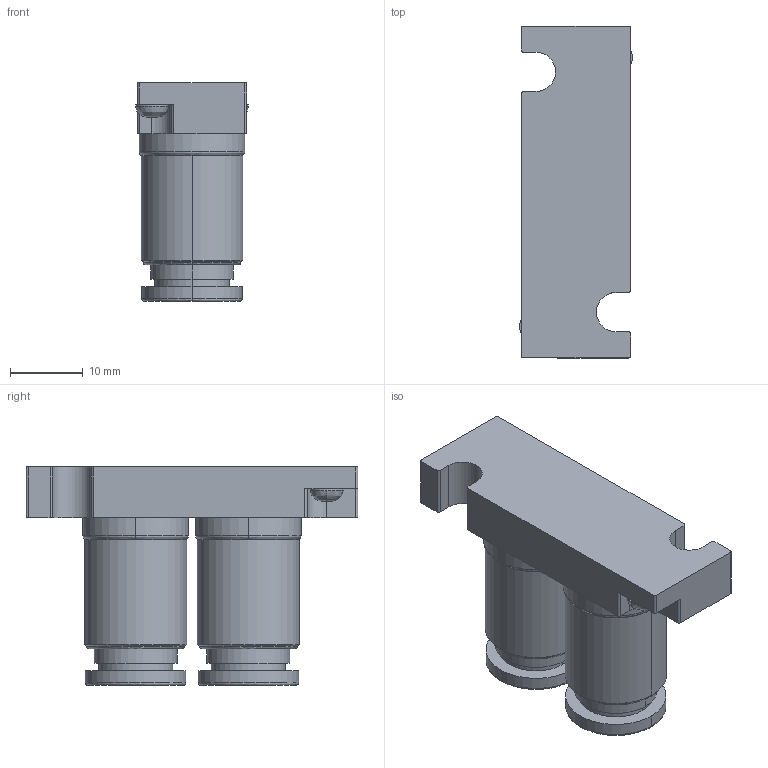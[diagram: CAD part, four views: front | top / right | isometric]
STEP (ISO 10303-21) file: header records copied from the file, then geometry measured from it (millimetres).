
FILE_DESCRIPTION( (''), '2;1');
FILE_NAME ('CVICAD02.6296.F15_Port-VJ6_23607.stp','2021-07-12T19:23:35',(''),(''),'spGate 12.6.6','','');
FILE_SCHEMA (('AUTOMOTIVE_DESIGN'));
Length unit declared in the file: millimetre
Bounding box: 15.5 x 45.6 x 30 mm (x, y, z)
Volume: 9015.4 mm3; surface area: 5477 mm2
Topology: 1 solids, 1 shells, 102 faces, 238 edges, 150 vertices
Faces by surface type: cylinder 48, plane 34, bspline 20
Entity records: 5221 total; most frequent: CARTESIAN_POINT 992, ORIENTED_EDGE 476, DIRECTION 468, COLOUR_RGB 341, PRESENTATION_STYLE_ASSIGNMENT 341, STYLED_ITEM 341, EDGE_CURVE 238, DRAUGHTING_PRE_DEFINED_CURVE_FONT 238
